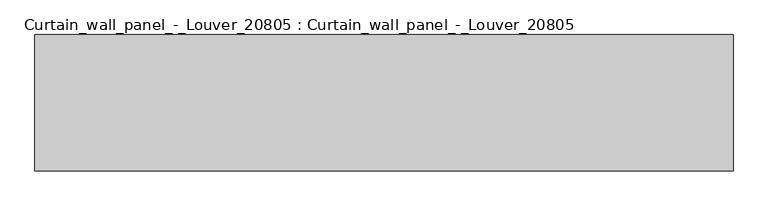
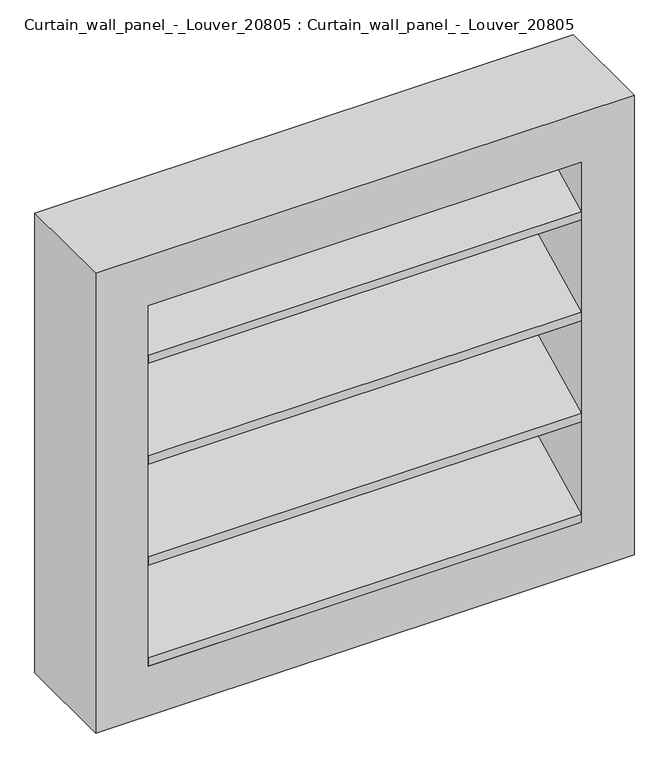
"""IFC4 building model written with IfcOpenShell, lengths in millimetres: plate geometry, Curtain_wall_panel_-_Louver_20805 : Curtain_wall_panel_-_Louver_20805."""

from ifc_helpers import new_model, si_unit, frame, origin, place, context, project, spatial, polyline, outline, extrude, source, transform, mapped, element, save


def curtain_wall_panel_louver_20805_curtain_wall_panel_louver_7a110b76(model_context):
    return source(origin(), model_context, "Body", "SweptSolid", [
        extrude(outline(polyline([(200.0, 605.2950441), (0.0, 505.910046), (0.0, 522.6599789), (200.0, 622.044977), (200.0, 605.2950441)])), frame((-412.5, 0.0, 0.0), z_axis=(1.0, 0.0, 0.0), x_axis=(0.0, 1.0, 0.0)), (0.0, 0.0, 1.0), 825.0),
        extrude(outline(polyline([(200.0, 402.3400211), (0.0, 302.955023), (0.0, 319.7049559), (200.0, 419.089954), (200.0, 402.3400211)])), frame((-412.5, 0.0, 0.0), z_axis=(1.0, 0.0, 0.0), x_axis=(0.0, 1.0, 0.0)), (0.0, 0.0, 1.0), 825.0),
        extrude(outline(polyline([(200.0, 808.2500672), (0.0, 708.8650691), (0.0, 725.6150019), (200.0, 825.0), (200.0, 808.2500672)])), frame((-412.5, 0.0, 0.0), z_axis=(1.0, 0.0, 0.0), x_axis=(0.0, 1.0, 0.0)), (0.0, 0.0, 1.0), 825.0),
        extrude(outline(polyline([(200.0, 199.3849981), (0.0, 100.0), (0.0, 116.7499328), (200.0, 216.1349309), (200.0, 199.3849981)])), frame((-412.5, 0.0, 0.0), z_axis=(1.0, 0.0, 0.0), x_axis=(0.0, 1.0, 0.0)), (0.0, 0.0, 1.0), 825.0),
        extrude(outline(polyline([(925.0, -512.5), (0.0, -512.5), (0.0, 512.5), (925.0, 512.5), (925.0, -512.5)]), holes=[polyline([(825.0, -412.5), (825.0, 412.5), (100.0, 412.5), (100.0, -412.5), (825.0, -412.5)])]), frame((0.0, 0.0, 0.0), z_axis=(0.0, 1.0, 0.0), x_axis=(0.0, 0.0, 1.0)), (0.0, 0.0, 1.0), 200.0),
    ])


if __name__ == "__main__":
    model = new_model("IFC4")
    model_context = context("Model", 3, world=origin())
    ifc_project = project(units=[si_unit("LENGTHUNIT", "METRE", prefix="MILLI")], contexts=[model_context])
    site = spatial("IfcSite", under=ifc_project)
    building = spatial("IfcBuilding", under=site)
    placement = place(None, origin())
    curtain_wall_panel_louver_20805_curtain_wall_panel_louver_shape = curtain_wall_panel_louver_20805_curtain_wall_panel_louver_7a110b76(model_context)
    element("IfcPlate", 1, ObjectType="Curtain_wall_panel_-_Louver_20805 : Curtain_wall_panel_-_Louver_20805", at=placement, inside=building, context=model_context, shape_type="MappedRepresentation", body=[
        mapped(curtain_wall_panel_louver_20805_curtain_wall_panel_louver_shape, transform((0.0, 0.0, 0.0), x_axis=(1.0, 0.0, 0.0), y_axis=(0.0, 1.0, 0.0), z_axis=(0.0, 0.0, 1.0))),
    ])
    save(model, "model.ifc")
